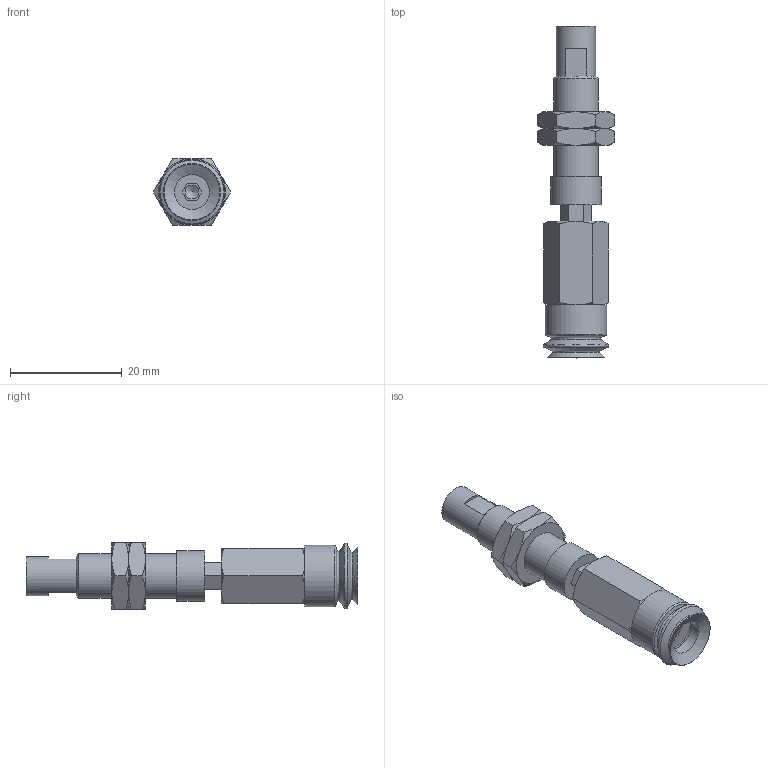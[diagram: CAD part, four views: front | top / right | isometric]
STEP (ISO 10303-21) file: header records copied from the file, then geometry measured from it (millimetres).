
FILE_DESCRIPTION(('STEP AP203'),'1');
FILE_NAME('.stp','2025-08-27T06:30:36',(' '),(' '),'Spatial InterOp 3D',' ',' ');
FILE_SCHEMA(('CONFIG_CONTROL_DESIGN'));
Length unit declared in the file: millimetre
Products named in the file (7): BNABPJTH-10-3-※; ADAPTER; NAPCTH-10-3-MBODY; Adapter-10-NAPJ; NAPJH-10-3-NUT; NAPJTH-10-3-FBODY; BPJG-10-※
Assembly tree (7 placements, depth 2):
  BNABPJTH-10-3-※
    ADAPTER
    NAPCTH-10-3-MBODY
    Adapter-10-NAPJ
    NAPJH-10-3-NUT  x2
    NAPJTH-10-3-FBODY
    BPJG-10-※
Bounding box: 13.86 x 59.5 x 12 mm (x, y, z)
Volume: 3898.1 mm3; surface area: 4368 mm2
Topology: 7 solids, 7 shells, 132 faces, 285 edges, 173 vertices
Faces by surface type: plane 60, cone 51, cylinder 14, torus 7
Full cylindrical faces by diameter (mm): 2.5 x1, 4.134 x2, 4.6 x1, 5 x1, 6.266 x1, 7 x1, 7.188 x2, 7.8 x1, 8 x2, 9 x1, 11 x1
Entity records: 3444 total; most frequent: CARTESIAN_POINT 938, DIRECTION 450, ORIENTED_EDGE 386, EDGE_CURVE 193, AXIS2_PLACEMENT_3D 188, EDGE_LOOP 156, VERTEX_POINT 136, FACE_OUTER_BOUND 129
